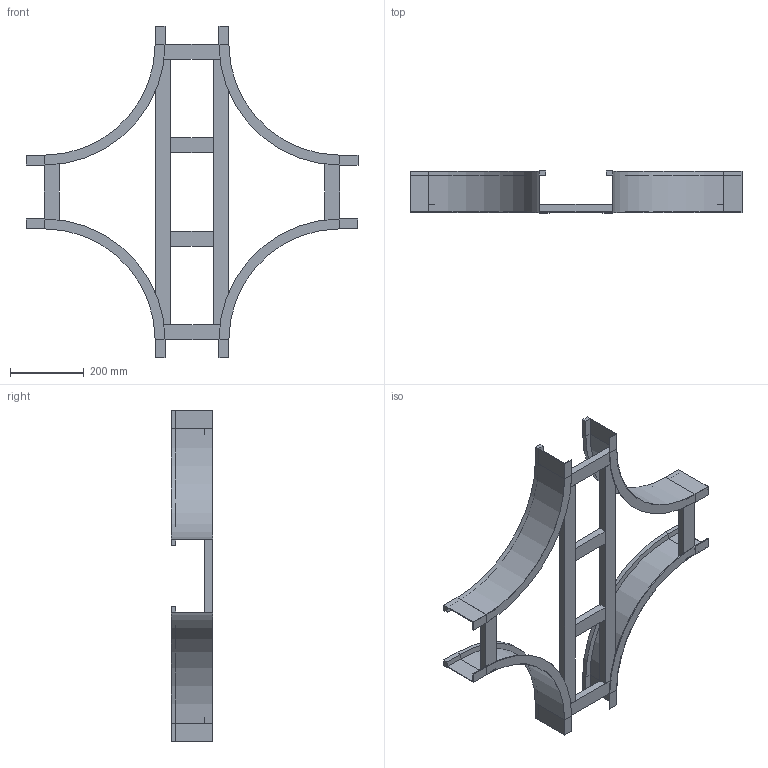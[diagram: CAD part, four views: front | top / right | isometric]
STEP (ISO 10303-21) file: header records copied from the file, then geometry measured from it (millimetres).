
FILE_DESCRIPTION (( 'STEP AP214' ), '1' );
FILE_NAME ('B2_17B3J200.step', '2025-02-21T15:57:10', ( '' ), ( '' ), 'SwSTEP 2.0', 'SolidWorks 2023', '' );
FILE_SCHEMA (( 'AUTOMOTIVE_DESIGN' ));
Length unit declared in the file: millimetre
Products named in the file (5): TRAVERSINO_200; B2_LONGH.INTERNO 90°_H112.5_R300; B2_17B3J200; B2_TRAVERSINO_LONG._R300+200; TRAVERSINO_INTERMEDIO_R300+200
Assembly tree (12 placements, depth 2):
  B2_17B3J200
    B2_LONGH.INTERNO 90°_H112.5_R300  x4
    TRAVERSINO_200  x4
    B2_TRAVERSINO_LONG._R300+200  x2
    TRAVERSINO_INTERMEDIO_R300+200  x2
Bounding box: 900 x 112.5 x 900 mm (x, y, z)
Volume: 3071227 mm3; surface area: 1033534.5 mm2
Topology: 12 solids, 12 shells, 152 faces, 320 edges, 192 vertices
Faces by surface type: plane 136, cylinder 16
Entity records: 1354 total; most frequent: DIRECTION 218, CARTESIAN_POINT 207, ORIENTED_EDGE 184, EDGE_CURVE 92, VECTOR 84, LINE 84, AXIS2_PLACEMENT_3D 67, VERTEX_POINT 56
